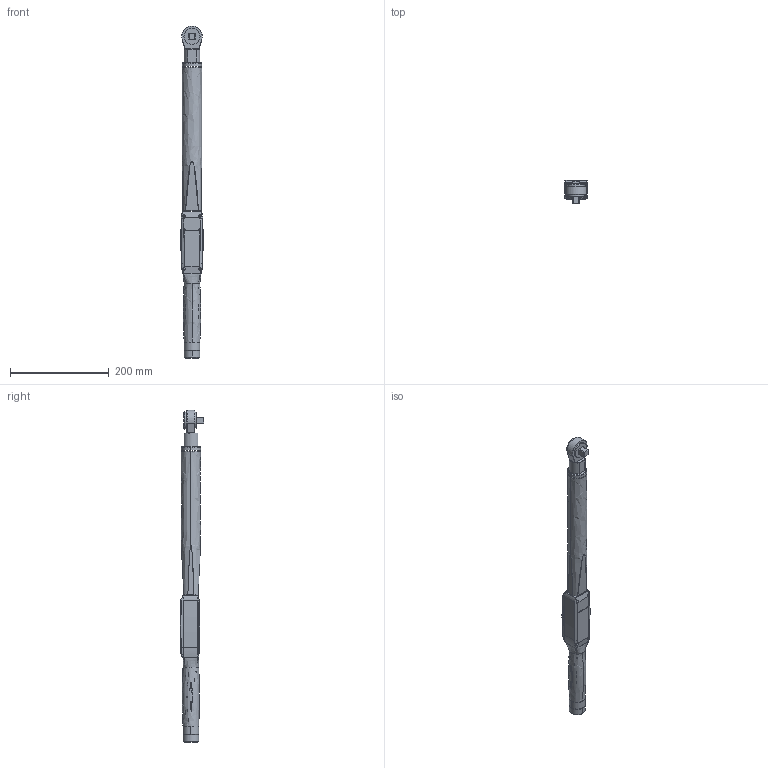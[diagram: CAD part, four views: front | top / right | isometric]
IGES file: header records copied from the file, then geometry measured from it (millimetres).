
Start section:  PTC IGES file: 6159352020_dim.igs
Global section: file name: 6159352020_dim.igs; native system: Creo Parametric by PTC Inc.; preprocessor: 2021072; author: S00000450; organization: Unknown; date: 20210628.091342; units: millimetre
Bounding box: 45.16 x 48.45 x 673.68 mm (x, y, z)
Surface area: 92411.1 mm2 (no closed solid volume)
Topology: 0 solids, 0 shells, 251 faces, 1167 edges, 1167 vertices
Faces by surface type: bspline 153, revolution 90, extrusion 8
